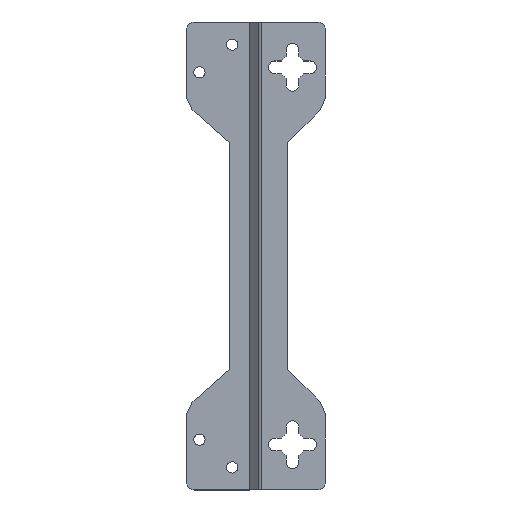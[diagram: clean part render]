
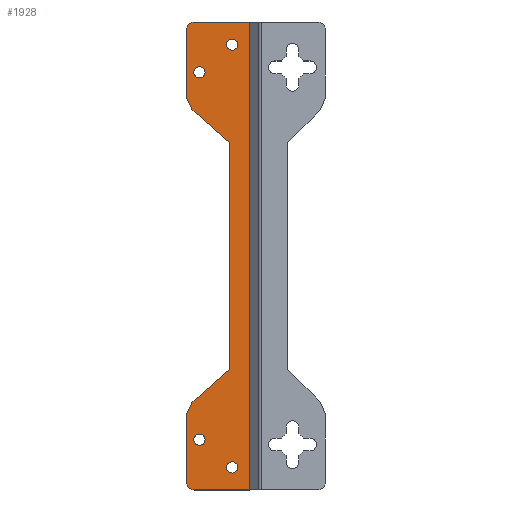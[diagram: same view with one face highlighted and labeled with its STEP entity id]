
A CAD part, top view. The second image highlights one B-rep face of the part: STEP entity #1928.
In plain terms, the highlighted planar face has unit normal (0, 0, 1).
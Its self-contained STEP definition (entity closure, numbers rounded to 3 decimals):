
#554=DIRECTION('',(-0.75,-0.662,0.));
#555=VECTOR('',#554,19.93);
#556=CARTESIAN_POINT('',(-12.,-45.,-2.8));
#557=LINE('',#556,#555);
#558=DIRECTION('',(0.,-1.,0.));
#559=VECTOR('',#558,90.);
#560=CARTESIAN_POINT('',(-12.,45.,-2.8));
#561=LINE('',#560,#559);
#562=DIRECTION('',(0.75,-0.662,0.));
#563=VECTOR('',#562,19.93);
#564=CARTESIAN_POINT('',(-26.945,58.186,-2.8));
#565=LINE('',#564,#563);
#566=DIRECTION('',(0.411,-0.912,0.));
#567=VECTOR('',#566,4.999);
#568=CARTESIAN_POINT('',(-29.,62.743,-2.8));
#569=LINE('',#568,#567);
#570=DIRECTION('',(0.,1.,0.));
#571=VECTOR('',#570,27.257);
#572=CARTESIAN_POINT('',(-29.,62.743,-2.8));
#573=LINE('',#572,#571);
#574=CARTESIAN_POINT('',(-26.,90.,-2.8));
#575=DIRECTION('',(0.,0.,1.));
#576=DIRECTION('',(0.,1.,0.));
#577=AXIS2_PLACEMENT_3D('',#574,#575,#576);
#579=DIRECTION('',(1.,0.,0.));
#580=VECTOR('',#579,22.);
#581=CARTESIAN_POINT('',(-26.,93.,-2.8));
#582=LINE('',#581,#580);
#583=DIRECTION('',(0.,-1.,0.));
#584=VECTOR('',#583,186.);
#585=CARTESIAN_POINT('',(-4.,93.,-2.8));
#586=LINE('',#585,#584);
#587=DIRECTION('',(-1.,0.,0.));
#588=VECTOR('',#587,22.);
#589=CARTESIAN_POINT('',(-4.,-93.,-2.8));
#590=LINE('',#589,#588);
#591=CARTESIAN_POINT('',(-26.,-90.,-2.8));
#592=DIRECTION('',(0.,0.,1.));
#593=DIRECTION('',(-1.,0.,0.));
#594=AXIS2_PLACEMENT_3D('',#591,#592,#593);
#596=DIRECTION('',(0.,1.,0.));
#597=VECTOR('',#596,27.257);
#598=CARTESIAN_POINT('',(-29.,-90.,-2.8));
#599=LINE('',#598,#597);
#600=DIRECTION('',(-0.411,-0.912,0.));
#601=VECTOR('',#600,4.999);
#602=CARTESIAN_POINT('',(-26.945,-58.186,-2.8));
#603=LINE('',#602,#601);
#604=CARTESIAN_POINT('',(-11.,84.,-2.8));
#605=DIRECTION('',(0.,0.,-1.));
#606=DIRECTION('',(-1.,0.,0.));
#607=AXIS2_PLACEMENT_3D('',#604,#605,#606);
#609=CARTESIAN_POINT('',(-11.,84.,-2.8));
#610=DIRECTION('',(0.,0.,-1.));
#611=DIRECTION('',(1.,0.,0.));
#612=AXIS2_PLACEMENT_3D('',#609,#610,#611);
#614=CARTESIAN_POINT('',(-11.,-84.,-2.8));
#615=DIRECTION('',(0.,0.,-1.));
#616=DIRECTION('',(-1.,0.,0.));
#617=AXIS2_PLACEMENT_3D('',#614,#615,#616);
#619=CARTESIAN_POINT('',(-11.,-84.,-2.8));
#620=DIRECTION('',(0.,0.,-1.));
#621=DIRECTION('',(1.,0.,0.));
#622=AXIS2_PLACEMENT_3D('',#619,#620,#621);
#624=CARTESIAN_POINT('',(-24.,73.,-2.8));
#625=DIRECTION('',(0.,0.,-1.));
#626=DIRECTION('',(-1.,0.,0.));
#627=AXIS2_PLACEMENT_3D('',#624,#625,#626);
#629=CARTESIAN_POINT('',(-24.,73.,-2.8));
#630=DIRECTION('',(0.,0.,-1.));
#631=DIRECTION('',(1.,0.,0.));
#632=AXIS2_PLACEMENT_3D('',#629,#630,#631);
#634=CARTESIAN_POINT('',(-24.,-73.,-2.8));
#635=DIRECTION('',(0.,0.,1.));
#636=DIRECTION('',(1.,0.,0.));
#637=AXIS2_PLACEMENT_3D('',#634,#635,#636);
#639=CARTESIAN_POINT('',(-24.,-73.,-2.8));
#640=DIRECTION('',(0.,0.,1.));
#641=DIRECTION('',(-1.,0.,0.));
#642=AXIS2_PLACEMENT_3D('',#639,#640,#641);
#990=CARTESIAN_POINT('',(-4.,-93.,-2.8));
#991=VERTEX_POINT('',#990);
#992=CARTESIAN_POINT('',(-4.,93.,-2.8));
#993=VERTEX_POINT('',#992);
#1070=CARTESIAN_POINT('',(-29.,-90.,-2.8));
#1071=VERTEX_POINT('',#1070);
#1072=CARTESIAN_POINT('',(-26.,-93.,-2.8));
#1073=VERTEX_POINT('',#1072);
#1078=CARTESIAN_POINT('',(-26.,93.,-2.8));
#1079=VERTEX_POINT('',#1078);
#1080=CARTESIAN_POINT('',(-29.,90.,-2.8));
#1081=VERTEX_POINT('',#1080);
#1114=CARTESIAN_POINT('',(-12.,-45.,-2.8));
#1115=CARTESIAN_POINT('',(-26.945,-58.186,-2.8));
#1116=VERTEX_POINT('',#1114);
#1117=VERTEX_POINT('',#1115);
#1118=CARTESIAN_POINT('',(-29.,-62.743,-2.8));
#1119=VERTEX_POINT('',#1118);
#1120=CARTESIAN_POINT('',(-29.,62.743,-2.8));
#1121=VERTEX_POINT('',#1120);
#1126=CARTESIAN_POINT('',(-26.945,58.186,-2.8));
#1127=VERTEX_POINT('',#1126);
#1128=CARTESIAN_POINT('',(-12.,45.,-2.8));
#1129=VERTEX_POINT('',#1128);
#1134=CARTESIAN_POINT('',(-13.25,84.,-2.8));
#1135=CARTESIAN_POINT('',(-8.75,84.,-2.8));
#1136=VERTEX_POINT('',#1134);
#1137=VERTEX_POINT('',#1135);
#1142=CARTESIAN_POINT('',(-21.75,73.,-2.8));
#1143=VERTEX_POINT('',#1142);
#1144=CARTESIAN_POINT('',(-26.25,73.,-2.8));
#1145=VERTEX_POINT('',#1144);
#1150=CARTESIAN_POINT('',(-13.25,-84.,-2.8));
#1151=CARTESIAN_POINT('',(-8.75,-84.,-2.8));
#1152=VERTEX_POINT('',#1150);
#1153=VERTEX_POINT('',#1151);
#1158=CARTESIAN_POINT('',(-21.75,-73.,-2.8));
#1159=CARTESIAN_POINT('',(-26.25,-73.,-2.8));
#1160=VERTEX_POINT('',#1158);
#1161=VERTEX_POINT('',#1159);
#1874=CARTESIAN_POINT('',(-3.503,-93.,-2.8));
#1875=DIRECTION('',(0.,0.,-1.));
#1876=DIRECTION('',(0.,-1.,0.));
#1877=AXIS2_PLACEMENT_3D('',#1874,#1875,#1876);
#1878=PLANE('',#1877);
#1880=ORIENTED_EDGE('',*,*,#1879,.F.);
#1882=ORIENTED_EDGE('',*,*,#1881,.F.);
#1884=ORIENTED_EDGE('',*,*,#1883,.F.);
#1886=ORIENTED_EDGE('',*,*,#1885,.F.);
#1888=ORIENTED_EDGE('',*,*,#1887,.T.);
#1890=ORIENTED_EDGE('',*,*,#1889,.F.);
#1892=ORIENTED_EDGE('',*,*,#1891,.T.);
#1893=ORIENTED_EDGE('',*,*,#1864,.T.);
#1895=ORIENTED_EDGE('',*,*,#1894,.T.);
#1897=ORIENTED_EDGE('',*,*,#1896,.F.);
#1899=ORIENTED_EDGE('',*,*,#1898,.T.);
#1901=ORIENTED_EDGE('',*,*,#1900,.F.);
#1902=EDGE_LOOP('',(#1880,#1882,#1884,#1886,#1888,#1890,#1892,#1893,#1895,#1897,
#1899,#1901));
#1903=FACE_OUTER_BOUND('',#1902,.F.);
#1905=ORIENTED_EDGE('',*,*,#1904,.F.);
#1907=ORIENTED_EDGE('',*,*,#1906,.F.);
#1908=EDGE_LOOP('',(#1905,#1907));
#1909=FACE_BOUND('',#1908,.F.);
#1911=ORIENTED_EDGE('',*,*,#1910,.F.);
#1913=ORIENTED_EDGE('',*,*,#1912,.F.);
#1914=EDGE_LOOP('',(#1911,#1913));
#1915=FACE_BOUND('',#1914,.F.);
#1917=ORIENTED_EDGE('',*,*,#1916,.F.);
#1919=ORIENTED_EDGE('',*,*,#1918,.F.);
#1920=EDGE_LOOP('',(#1917,#1919));
#1921=FACE_BOUND('',#1920,.F.);
#1923=ORIENTED_EDGE('',*,*,#1922,.T.);
#1925=ORIENTED_EDGE('',*,*,#1924,.T.);
#1926=EDGE_LOOP('',(#1923,#1925));
#1927=FACE_BOUND('',#1926,.F.);
#578=CIRCLE('',#577,3.);
#595=CIRCLE('',#594,3.);
#608=CIRCLE('',#607,2.25);
#613=CIRCLE('',#612,2.25);
#618=CIRCLE('',#617,2.25);
#623=CIRCLE('',#622,2.25);
#628=CIRCLE('',#627,2.25);
#633=CIRCLE('',#632,2.25);
#638=CIRCLE('',#637,2.25);
#643=CIRCLE('',#642,2.25);
#1864=EDGE_CURVE('',#993,#991,#586,.T.);
#1879=EDGE_CURVE('',#1116,#1117,#557,.T.);
#1881=EDGE_CURVE('',#1129,#1116,#561,.T.);
#1883=EDGE_CURVE('',#1127,#1129,#565,.T.);
#1885=EDGE_CURVE('',#1121,#1127,#569,.T.);
#1887=EDGE_CURVE('',#1121,#1081,#573,.T.);
#1889=EDGE_CURVE('',#1079,#1081,#578,.T.);
#1891=EDGE_CURVE('',#1079,#993,#582,.T.);
#1894=EDGE_CURVE('',#991,#1073,#590,.T.);
#1896=EDGE_CURVE('',#1071,#1073,#595,.T.);
#1898=EDGE_CURVE('',#1071,#1119,#599,.T.);
#1900=EDGE_CURVE('',#1117,#1119,#603,.T.);
#1904=EDGE_CURVE('',#1136,#1137,#608,.T.);
#1906=EDGE_CURVE('',#1137,#1136,#613,.T.);
#1910=EDGE_CURVE('',#1152,#1153,#618,.T.);
#1912=EDGE_CURVE('',#1153,#1152,#623,.T.);
#1916=EDGE_CURVE('',#1145,#1143,#628,.T.);
#1918=EDGE_CURVE('',#1143,#1145,#633,.T.);
#1922=EDGE_CURVE('',#1160,#1161,#638,.T.);
#1924=EDGE_CURVE('',#1161,#1160,#643,.T.);
#1928=ADVANCED_FACE('',(#1903,#1909,#1915,#1921,#1927),#1878,.F.);
